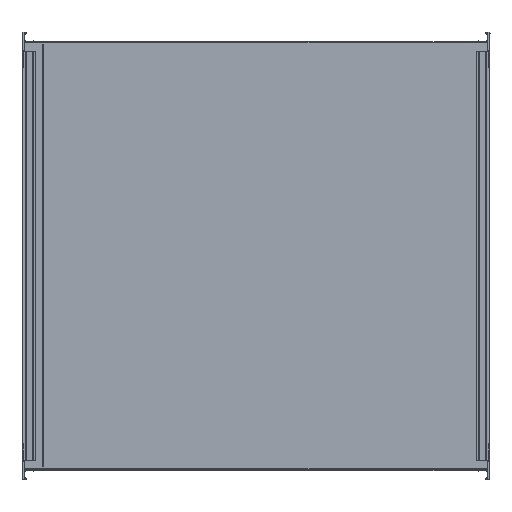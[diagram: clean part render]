
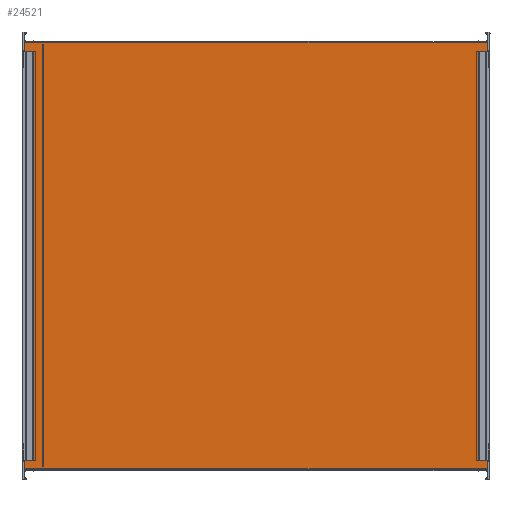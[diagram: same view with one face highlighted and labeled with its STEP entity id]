
A CAD part, top view. The second image highlights one B-rep face of the part: STEP entity #24521.
In plain terms, the highlighted planar face has unit normal (0, 0, 1).
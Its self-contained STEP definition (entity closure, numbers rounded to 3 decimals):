
#639=FACE_BOUND('',#3335,.T.);
#640=FACE_BOUND('',#3336,.T.);
#2086=FACE_OUTER_BOUND('',#3334,.T.);
#3334=EDGE_LOOP('',(#21808,#21809,#21810,#21811,#21812,#21813));
#3335=EDGE_LOOP('',(#21814,#21815,#21816,#21817));
#3336=EDGE_LOOP('',(#21818,#21819,#21820,#21821));
#4166=LINE('',#33252,#6756);
#4576=LINE('',#36875,#7166);
#4640=LINE('',#37086,#7230);
#5328=LINE('',#38675,#7918);
#5359=LINE('',#38754,#7949);
#5383=LINE('',#38801,#7973);
#5385=LINE('',#38804,#7975);
#5791=LINE('',#39770,#8381);
#5809=LINE('',#39823,#8399);
#5864=LINE('',#39964,#8454);
#5866=LINE('',#39967,#8456);
#6451=LINE('',#41319,#9041);
#6456=LINE('',#41329,#9046);
#6465=LINE('',#41343,#9055);
#6756=VECTOR('',#26233,10.);
#7166=VECTOR('',#26831,10.);
#7230=VECTOR('',#26985,10.);
#7918=VECTOR('',#28389,10.);
#7949=VECTOR('',#28458,10.);
#7973=VECTOR('',#28528,10.);
#7975=VECTOR('',#28532,10.);
#8381=VECTOR('',#29406,10.);
#8399=VECTOR('',#29450,10.);
#8454=VECTOR('',#29603,10.);
#8456=VECTOR('',#29607,10.);
#9041=VECTOR('',#30904,10.);
#9046=VECTOR('',#30915,10.);
#9055=VECTOR('',#30926,10.);
#9390=VERTEX_POINT('',#33249);
#9391=VERTEX_POINT('',#33251);
#9890=VERTEX_POINT('',#36872);
#9891=VERTEX_POINT('',#36874);
#9976=VERTEX_POINT('',#37051);
#9992=VERTEX_POINT('',#37083);
#9993=VERTEX_POINT('',#37085);
#10535=VERTEX_POINT('',#38672);
#10536=VERTEX_POINT('',#38674);
#10552=VERTEX_POINT('',#38706);
#10890=VERTEX_POINT('',#39767);
#10891=VERTEX_POINT('',#39769);
#10912=VERTEX_POINT('',#39820);
#10913=VERTEX_POINT('',#39822);
#11858=EDGE_CURVE('',#9391,#9390,#4166,.T.);
#12602=EDGE_CURVE('',#9891,#9890,#4576,.T.);
#12707=EDGE_CURVE('',#9993,#9992,#4640,.T.);
#13507=EDGE_CURVE('',#10536,#10535,#5328,.T.);
#13548=EDGE_CURVE('',#9976,#10552,#5359,.T.);
#13572=EDGE_CURVE('',#10535,#9993,#5383,.T.);
#13574=EDGE_CURVE('',#10536,#9992,#5385,.T.);
#14063=EDGE_CURVE('',#10891,#10890,#5791,.T.);
#14091=EDGE_CURVE('',#10913,#10912,#5809,.T.);
#14163=EDGE_CURVE('',#10890,#10913,#5864,.T.);
#14165=EDGE_CURVE('',#10891,#10912,#5866,.T.);
#14846=EDGE_CURVE('',#10552,#9390,#6451,.T.);
#14851=EDGE_CURVE('',#9891,#9976,#6456,.T.);
#14860=EDGE_CURVE('',#9391,#9890,#6465,.T.);
#21808=ORIENTED_EDGE('',*,*,#11858,.T.);
#21809=ORIENTED_EDGE('',*,*,#14846,.F.);
#21810=ORIENTED_EDGE('',*,*,#13548,.F.);
#21811=ORIENTED_EDGE('',*,*,#14851,.F.);
#21812=ORIENTED_EDGE('',*,*,#12602,.T.);
#21813=ORIENTED_EDGE('',*,*,#14860,.F.);
#21814=ORIENTED_EDGE('',*,*,#12707,.T.);
#21815=ORIENTED_EDGE('',*,*,#13574,.F.);
#21816=ORIENTED_EDGE('',*,*,#13507,.T.);
#21817=ORIENTED_EDGE('',*,*,#13572,.T.);
#21818=ORIENTED_EDGE('',*,*,#14091,.T.);
#21819=ORIENTED_EDGE('',*,*,#14165,.F.);
#21820=ORIENTED_EDGE('',*,*,#14063,.T.);
#21821=ORIENTED_EDGE('',*,*,#14163,.T.);
#22584=PLANE('',#25804);
#24521=ADVANCED_FACE('',(#2086,#639,#640),#22584,.T.);
#25804=AXIS2_PLACEMENT_3D('',#41354,#30940,#30941);
#26233=DIRECTION('',(-1.,0.,0.));
#26831=DIRECTION('',(1.,0.,0.));
#26985=DIRECTION('',(-1.,0.,0.));
#28389=DIRECTION('',(1.,0.,0.));
#28458=DIRECTION('',(0.,1.,0.));
#28528=DIRECTION('',(0.,-1.,0.));
#28532=DIRECTION('',(0.,-1.,0.));
#29406=DIRECTION('',(-1.,0.,0.));
#29450=DIRECTION('',(1.,0.,0.));
#29603=DIRECTION('',(0.,1.,0.));
#29607=DIRECTION('',(0.,1.,0.));
#30904=DIRECTION('',(0.,1.,0.));
#30915=DIRECTION('',(0.,1.,0.));
#30926=DIRECTION('',(0.,-1.,0.));
#30940=DIRECTION('center_axis',(0.,0.,1.));
#30941=DIRECTION('ref_axis',(1.,0.,0.));
#33249=CARTESIAN_POINT('',(-878.,803.,1.5));
#33251=CARTESIAN_POINT('',(0.,803.,1.5));
#33252=CARTESIAN_POINT('',(-658.5,803.,1.5));
#36872=CARTESIAN_POINT('',(0.,0.,1.5));
#36874=CARTESIAN_POINT('',(-878.,0.,1.5));
#36875=CARTESIAN_POINT('',(-219.5,0.,1.5));
#37051=CARTESIAN_POINT('',(-878.,16.4,1.5));
#37083=CARTESIAN_POINT('',(-871.233,16.4,1.5));
#37085=CARTESIAN_POINT('',(-858.936,16.4,1.5));
#37086=CARTESIAN_POINT('',(-655.011,16.4,1.5));
#38672=CARTESIAN_POINT('',(-858.936,786.4,1.5));
#38674=CARTESIAN_POINT('',(-871.233,786.4,1.5));
#38675=CARTESIAN_POINT('',(-655.011,786.4,1.5));
#38706=CARTESIAN_POINT('',(-878.,786.4,1.5));
#38754=CARTESIAN_POINT('',(-878.,0.,1.5));
#38801=CARTESIAN_POINT('',(-858.936,786.4,1.5));
#38804=CARTESIAN_POINT('',(-871.233,786.4,1.5));
#39767=CARTESIAN_POINT('',(-18.664,16.4,1.5));
#39769=CARTESIAN_POINT('',(-6.367,16.4,1.5));
#39770=CARTESIAN_POINT('',(-222.789,16.4,1.5));
#39820=CARTESIAN_POINT('',(-6.367,786.4,1.5));
#39822=CARTESIAN_POINT('',(-18.664,786.4,1.5));
#39823=CARTESIAN_POINT('',(-222.789,786.4,1.5));
#39964=CARTESIAN_POINT('',(-18.664,16.4,1.5));
#39967=CARTESIAN_POINT('',(-6.367,16.4,1.5));
#41319=CARTESIAN_POINT('',(-878.,0.,1.5));
#41329=CARTESIAN_POINT('',(-878.,0.,1.5));
#41343=CARTESIAN_POINT('',(0.,803.,1.5));
#41354=CARTESIAN_POINT('Origin',(-439.,401.5,1.5));
